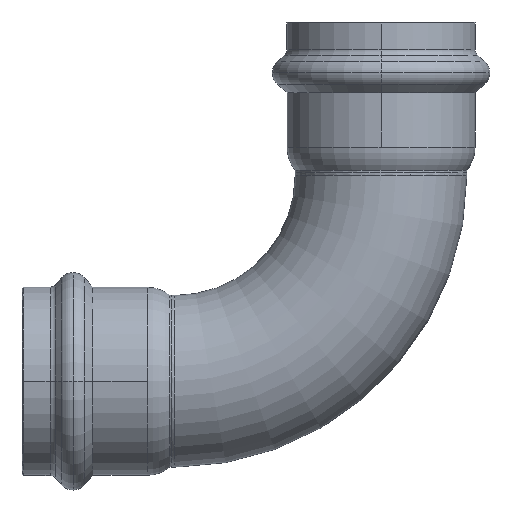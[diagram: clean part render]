
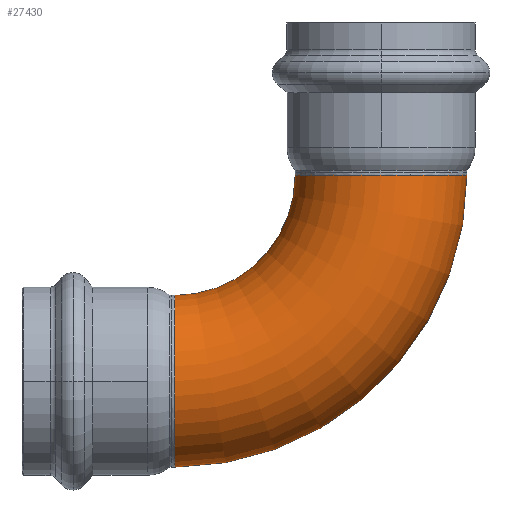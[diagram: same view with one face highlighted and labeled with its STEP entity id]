
A CAD part, left-side view. The second image highlights one B-rep face of the part: STEP entity #27430.
In plain terms, the highlighted toroidal (fillet/blend) face has major radius 42 mm and minor radius 17.5 mm.
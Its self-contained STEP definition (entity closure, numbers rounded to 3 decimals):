
#490=CARTESIAN_POINT('',(-246.511,193.522,0.));
#500=DIRECTION('',(0.,0.,1.));
#510=DIRECTION('',(-1.,0.,0.));
#520=AXIS2_PLACEMENT_3D('',#490,#500,#510);
#530=TOROIDAL_SURFACE('',#520,42.,17.5);
#540=CARTESIAN_POINT('',(-246.511,193.522,0.));
#550=DIRECTION('',(0.,0.,1.));
#560=DIRECTION('',(-1.,0.,0.));
#570=AXIS2_PLACEMENT_3D('',#540,#550,#560);
#580=CIRCLE('',#570,24.5);
#590=CARTESIAN_POINT('',(-271.011,193.522,0.));
#600=VERTEX_POINT('',#590);
#610=CARTESIAN_POINT('',(-246.511,169.022,0.));
#620=VERTEX_POINT('',#610);
#630=EDGE_CURVE('',#600,#620,#580,.T.);
#700=CARTESIAN_POINT('',(-306.011,193.522,
0.));
#710=VERTEX_POINT('',#700);
#740=CARTESIAN_POINT('',(-246.511,193.522,
0.));
#750=DIRECTION('',(0.,0.,1.));
#760=DIRECTION('',(-1.,0.,0.));
#770=AXIS2_PLACEMENT_3D('',#740,#750,#760);
#780=CIRCLE('',#770,59.5);
#790=CARTESIAN_POINT('',(-246.511,134.022,
0.));
#800=VERTEX_POINT('',#790);
#810=EDGE_CURVE('',#710,#800,#780,.T.);
#830=CARTESIAN_POINT('',(-246.511,151.522,0.));
#840=DIRECTION('',(1.,0.,0.));
#850=DIRECTION('',(0.,1.,0.));
#860=AXIS2_PLACEMENT_3D('',#830,#840,#850);
#870=CIRCLE('',#860,17.5);
#2420=EDGE_CURVE('',#620,#800,#870,.T.);
#11670=CARTESIAN_POINT('',(-288.511,193.522,0.));
#11680=DIRECTION('',(0.,-1.,0.));
#11690=DIRECTION('',(1.,0.,0.));
#11700=AXIS2_PLACEMENT_3D('',#11670,#11680,#11690);
#11710=CIRCLE('',#11700,17.5);
#11720=EDGE_CURVE('',#600,#710,#11710,.T.);
#27370=ORIENTED_EDGE('',*,*,#2420,.F.);
#27380=ORIENTED_EDGE('',*,*,#810,.T.);
#27390=ORIENTED_EDGE('',*,*,#11720,.T.);
#27400=ORIENTED_EDGE('',*,*,#630,.F.);
#27410=EDGE_LOOP('',(#27400,#27390,#27380,#27370));
#27420=FACE_OUTER_BOUND('',#27410,.T.);
#27430=ADVANCED_FACE('',(#27420),#530,.T.);
